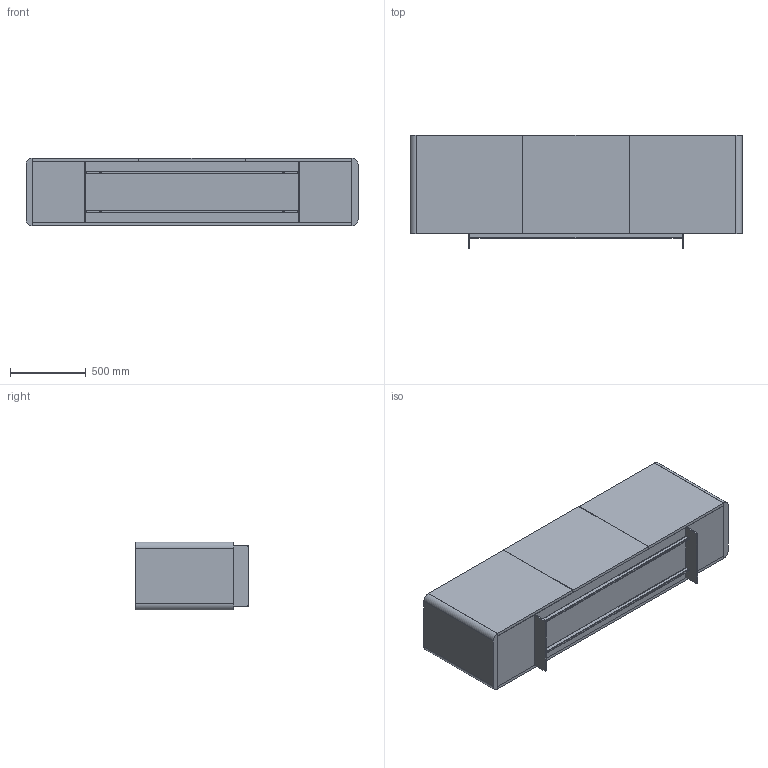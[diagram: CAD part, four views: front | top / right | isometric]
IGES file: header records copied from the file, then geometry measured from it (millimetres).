
Start section: SolidWorks IGES file using analytic representation for surfaces
Global section: file name: Y:\eforma\TECNICO\SOLIDWORKS\E-FORMA\6-MADIE\ALMA\02 parts\AL2LW_Alma_220x45x75h_Top Wood.IGS; native system: SolidWorks 2022; preprocessor: SolidWorks 2022; author: eforma.tech; date: 240806.100350; units: millimetre
Bounding box: 2198 x 750 x 450 mm (x, y, z)
Volume: 138531848.7 mm3; surface area: 14204619.8 mm2
Topology: 15 solids, 15 shells, 200 faces, 506 edges, 320 vertices
Faces by surface type: plane 108, revolution 92
